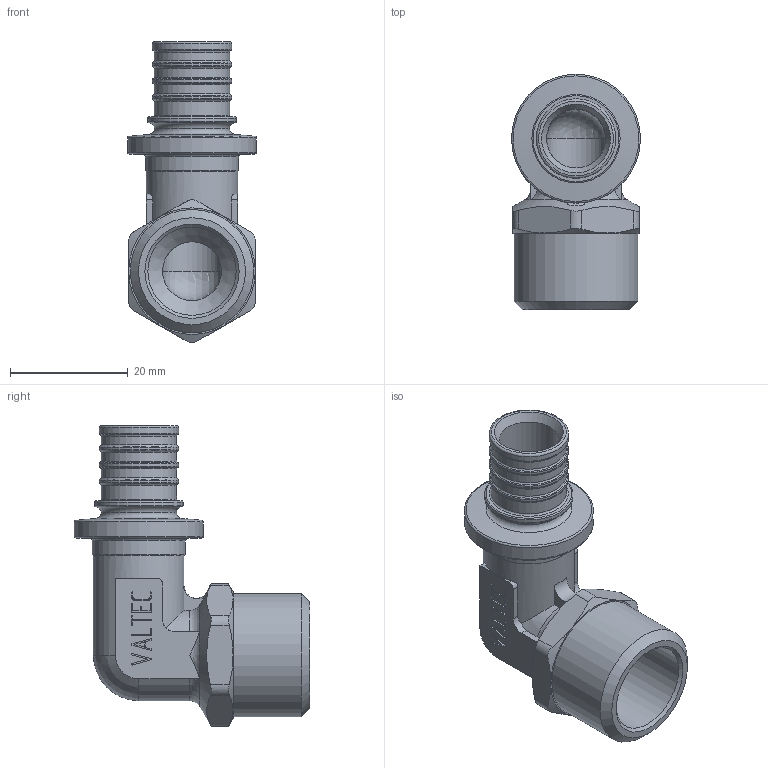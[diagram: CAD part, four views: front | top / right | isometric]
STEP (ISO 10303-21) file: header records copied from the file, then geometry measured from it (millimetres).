
FILE_DESCRIPTION(('STEP AP203'), '1');
FILE_NAME('ﾂﾐ.752212.004 - VTm.453.G.001604 ﾔ頸. 90 胙. 浯葢', '2024-01-24T06:22:38', ('Boss'), (''), 'C3D Converter', 'C3D Toolkit', '');
FILE_SCHEMA(('CONFIG_CONTROL_DESIGN'));
Length unit declared in the file: millimetre
Products named in the file (1): ВР.752212.004
Bounding box: 21.9 x 39.95 x 51.1 mm (x, y, z)
Volume: 8730.7 mm3; surface area: 6893.2 mm2
Topology: 1 solids, 1 shells, 335 faces, 900 edges, 582 vertices
Faces by surface type: extrusion 142, plane 121, cylinder 32, torus 25, cone 13, sphere 2
Full cylindrical faces by diameter (mm): 10 x2, 12.8 x5, 13.5 x4, 15 x2, 15.5 x1, 15.8 x1, 20.955 x1, 21.9 x1
Entity records: 11694 total; most frequent: CARTESIAN_POINT 4113, ORIENTED_EDGE 1696, DIRECTION 1120, EDGE_CURVE 848, VERTEX_POINT 580, VECTOR 574, B_SPLINE_CURVE_WITH_KNOTS 475, LINE 432
